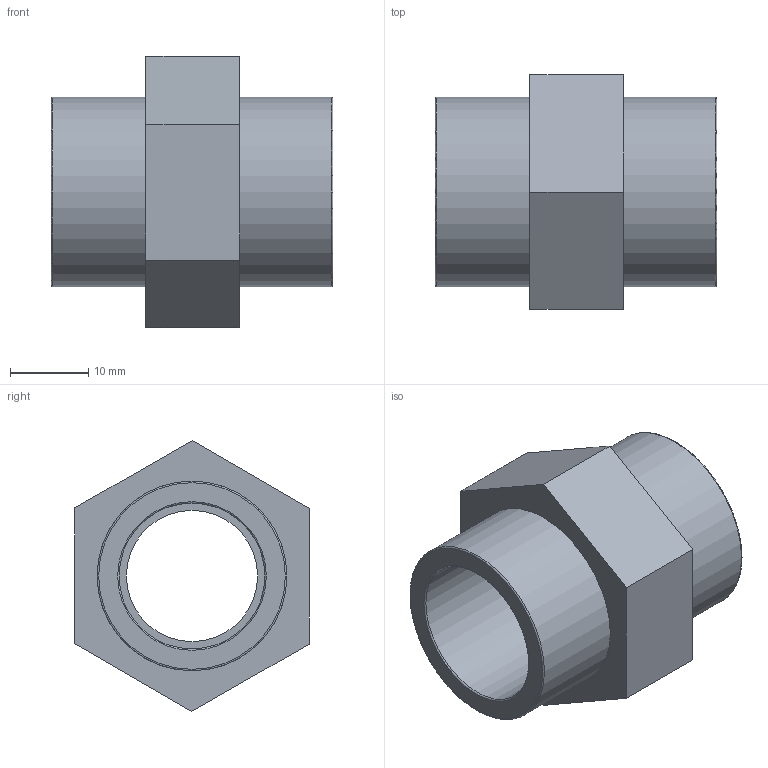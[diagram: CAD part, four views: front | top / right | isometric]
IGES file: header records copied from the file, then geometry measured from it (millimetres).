
Global section: file name: 050101005.ipt; native system: Autodesk Inventor 2015; preprocessor: unknown; author: KIM; date: 20171207.164032; units: millimetre
Bounding box: 36 x 30.05 x 34.64 mm (x, y, z)
Volume: 10697.8 mm3; surface area: 6264.3 mm2
Topology: 1 solids, 1 shells, 21 faces, 55 edges, 40 vertices
Faces by surface type: plane 12, revolution 7, cylinder 2
Full cylindrical faces by diameter (mm): 24.22 x2
